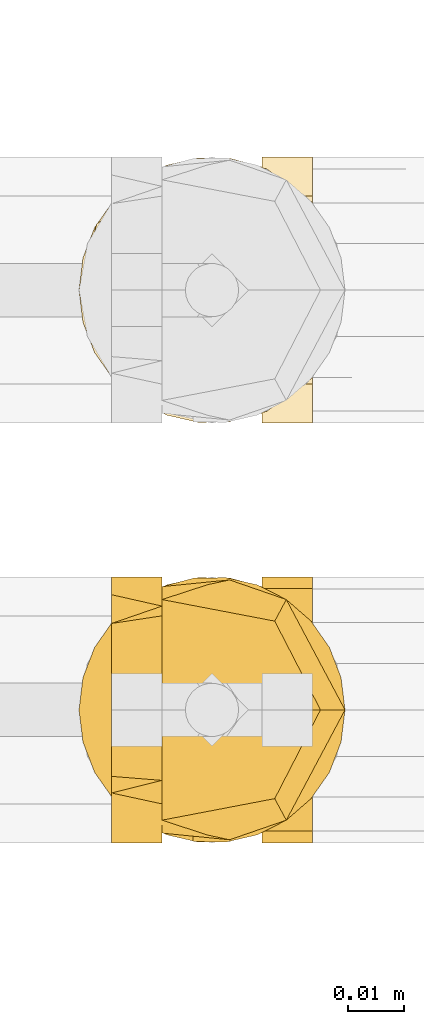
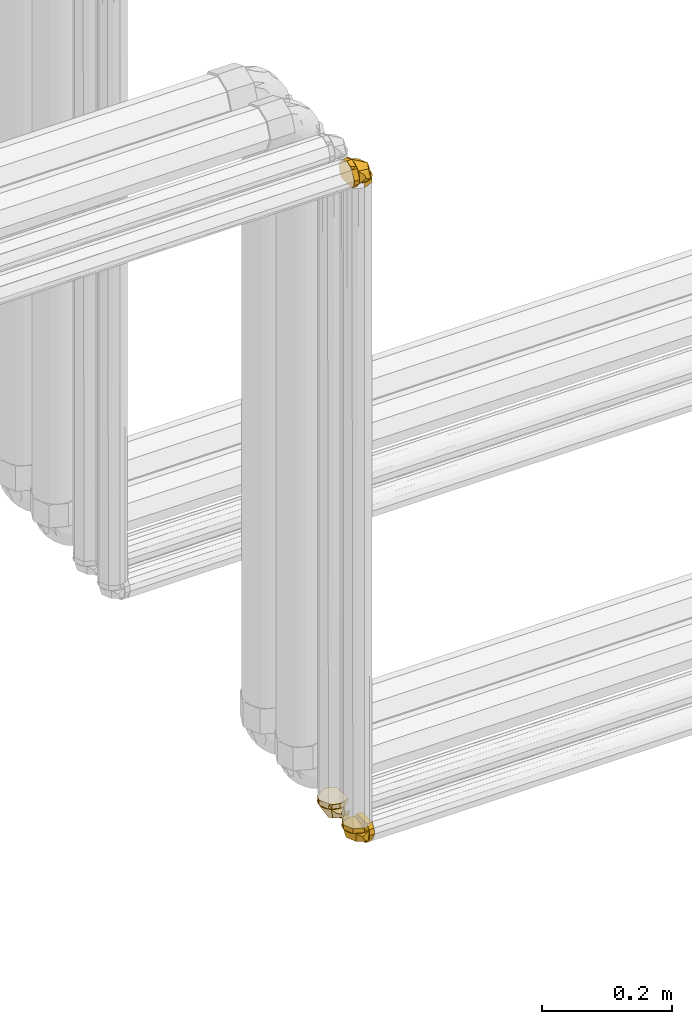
# One storey, part 367 of 652: 3 coverings.
"""IFC2X3 building model written with IfcOpenShell, lengths in millimetres."""

from ifc_helpers import new_model, entity, si_unit, converted_unit, direction, frame, origin, place, context, subcontext, project, spatial, face_set, surface_model, material, type_object, element, save


model = new_model("IFC2X3")

# Units and contexts
model_context = context("Model", 3, precision=0.01, world=frame((0.0, 0.0, 308426.39999999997)), true_north=direction((6.123233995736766e-17, 1.0)))
plan_context = context("Plan", 3, precision=0.01, world=frame((0.0, 0.0, 308426.39999999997)), true_north=direction((6.123233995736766e-17, 1.0)))
body_context = subcontext(model_context, "Body", "Model", "MODEL_VIEW")
ifc_project = project(units=[si_unit("LENGTHUNIT", "METRE", prefix="MILLI"), si_unit("AREAUNIT", "SQUARE_METRE"), si_unit("VOLUMEUNIT", "CUBIC_METRE"), converted_unit("PLANEANGLEUNIT", "DEGREE", entity("IfcPlaneAngleMeasure", 0.017453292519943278), si_unit("PLANEANGLEUNIT", "RADIAN"), dimensions=[0, 0, 0, 0, 0, 0, 0])], contexts=[model_context, plan_context])

# Site, building, storey
site_placement = place(None, origin())
site = spatial("IfcSite", under=ifc_project, at=site_placement, Name="Default", CompositionType="ELEMENT")
building_placement = place(site_placement, origin())
building = spatial("IfcBuilding", under=site, at=building_placement, CompositionType="ELEMENT")
storey_placement = place(building_placement, frame((0.0, 0.0, 1730.6999999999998)))
storey = spatial("IfcBuildingStorey", under=building, at=storey_placement, Name="EG_Produktion_FFB", CompositionType="ELEMENT", Elevation=1730.6999999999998)

# Coverings
ifc_material = material(Name="Dämmung - Armaflex-Schlauch")
covering_type = type_object("IfcCoveringType", Name="Rohrdämmung außen:Armaflex-Schlauch", PredefinedType="INSULATION")
covering_1_placement = place(storey_placement, frame((69474.64222776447, 40649.64222776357, 2584.3418455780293)))
element("IfcCovering", 1, at=covering_1_placement, inside=storey, type_object=covering_type, material=ifc_material, Name="Rohrdämmung außen:Armaflex-Schlauch", ObjectType="Rohrdämmung außen:Armaflex-Schlauch", PredefinedType="INSULATION", context=body_context, shape_type="SurfaceModel", body=[
    surface_model("IfcFaceBasedSurfaceModel", [(34.28827223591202, 3.3372686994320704, -10.458420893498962), (34.28827223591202, 48.88520354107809, -16.05479695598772), (34.28827223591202, 48.99253247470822, -21.849513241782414), (34.28827223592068, 47.69387779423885, -27.49785391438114), (34.28827223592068, 45.06649381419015, -32.66381072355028), (34.28827223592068, 41.266678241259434, -37.04007144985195), (34.28827223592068, 36.52047434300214, -40.36630128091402), (34.28827223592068, 31.11022409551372, -42.444629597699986), (34.28827223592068, 25.35777223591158, -43.15142089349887), (34.28827223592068, 19.605320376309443, -42.444629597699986), (34.28827223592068, 14.19507012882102, -40.36630128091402), (34.28827223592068, 9.448866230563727, -37.04007144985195), (34.28827223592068, 5.649050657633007, -32.66381072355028), (34.28827223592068, 3.0216666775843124, -27.49785391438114), (34.28827223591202, 1.7230119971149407, -21.84951324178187), (34.28827223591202, 1.8303409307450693, -16.05479695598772), (34.28827223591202, 47.37827577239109, -10.458420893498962), (28.691896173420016, 1.8303409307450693, -10.458420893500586), (22.897179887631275, 1.7230119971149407, -10.45842089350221), (17.248839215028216, 3.0216666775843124, -10.458420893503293), (12.082882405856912, 5.649050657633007, -10.458420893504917), (7.706621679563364, 9.448866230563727, -10.458420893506), (4.380391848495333, 14.19507012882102, -10.458420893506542), (2.302063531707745, 19.605320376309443, -10.458420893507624), (1.5952722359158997, 25.35777223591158, -10.458420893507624), (2.302063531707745, 31.11022409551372, -10.458420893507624), (4.380391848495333, 36.52047434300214, -10.458420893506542), (7.706621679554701, 41.266678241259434, -10.458420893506), (12.082882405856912, 45.06649381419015, -10.458420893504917), (17.248839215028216, 47.69387779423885, -10.458420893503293), (22.897179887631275, 48.99253247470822, -10.45842089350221), (28.691896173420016, 48.88520354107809, -10.458420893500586), (19.381051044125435, 2.9973108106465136, -18.580550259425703), (16.864925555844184, 9.499239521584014, -30.595223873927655), (23.315694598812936, 4.480941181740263, -10.458371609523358), (34.287117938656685, 15.619796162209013, -37.96861101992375), (17.943929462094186, 25.358736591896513, -38.77146899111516), (6.837630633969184, 15.503524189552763, -10.458371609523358), (9.139815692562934, 25.358736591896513, -23.526469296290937), (27.208480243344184, 2.1415490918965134, -22.52362353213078), (34.287117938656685, 4.494893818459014, -21.56118227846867), (19.381051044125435, 47.71551149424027, -18.580550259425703), (27.208480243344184, 48.57592409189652, -22.52362353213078), (16.864925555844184, 41.218233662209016, -30.595223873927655), (34.287117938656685, 35.09767702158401, -37.96861101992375), (23.315694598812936, 46.23653200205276, -10.458371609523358), (6.777169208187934, 35.09767702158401, -10.458371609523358), (9.767684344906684, 25.358736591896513, -24.614774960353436), (34.287117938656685, 46.22257936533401, -21.56118227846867), (43.309823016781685, 1.5973962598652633, -19.38893114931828), (34.287117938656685, 1.5973962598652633, -19.38893114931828), (34.287117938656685, 8.555111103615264, -36.19168459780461), (43.309823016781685, 8.555111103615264, -36.19168459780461), (34.287117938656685, 25.358736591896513, -43.15143420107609), (43.309823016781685, 25.358736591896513, -43.15143420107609), (34.287117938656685, 42.162362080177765, -36.19168459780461), (43.309823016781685, 42.162362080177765, -36.19168459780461), (34.287117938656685, 49.12007692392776, -19.38893114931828), (43.309823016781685, 49.12007692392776, -19.38893114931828), (20.213040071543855, 46.14995973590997, -1.4386708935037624), (15.068307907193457, 43.179647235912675, -1.4386708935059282), (9.923575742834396, 40.209334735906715, -1.4386708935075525), (4.7788435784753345, 37.239022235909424, -1.4386708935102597), (3.1870579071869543, 31.29839723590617, -1.4386708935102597), (1.5952722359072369, 25.35777223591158, -1.4386708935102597), (4.565584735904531, 20.21304007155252, -1.4386708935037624), (7.535897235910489, 15.068307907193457, -1.4386708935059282), (10.506209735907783, 9.92357574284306, -1.438670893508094), (13.476522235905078, 4.778843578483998, -1.4386708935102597), (19.417147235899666, 3.1870579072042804, -1.4386708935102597), (25.357772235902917, 1.5952722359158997, -1.4386708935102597), (30.236452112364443, 2.6431209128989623, -1.4386708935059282), (35.11513198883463, 3.690969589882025, -1.4386708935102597), (39.133276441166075, 6.64968879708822, -1.4386708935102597), (43.151420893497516, 9.608408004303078, -1.4386708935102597), (43.151420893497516, 41.107136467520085, -1.4386708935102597), (39.133276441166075, 44.06585567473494, -1.4386708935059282), (35.11513198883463, 47.024574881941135, -1.4386708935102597), (30.236452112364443, 48.0724235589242, -1.4386708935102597), (25.357772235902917, 49.12027223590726, -1.4386708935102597), (8.555147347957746, 42.160397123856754, -10.45842089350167), (12.755803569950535, 43.90036590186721, -10.45842089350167), (16.956459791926, 45.64033467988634, -10.45842089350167), (21.15711601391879, 47.3803034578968, -10.45842089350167), (25.357772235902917, 49.12027223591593, -10.45842089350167), (30.236452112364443, 48.0724235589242, -10.45842089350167), (35.11513198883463, 47.024574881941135, -10.45842089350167), (39.24189562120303, 43.985875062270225, -10.45842089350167), (43.151420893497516, 41.10713646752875, -10.45842089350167), (43.151420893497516, 9.608408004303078, -10.45842089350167), (39.133276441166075, 6.64968879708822, -10.45842089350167), (35.11513198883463, 3.690969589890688, -10.45842089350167), (30.10457078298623, 2.6147952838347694, -10.45842089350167), (25.357772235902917, 1.5952722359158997, -10.45842089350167), (21.15711601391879, 3.3352410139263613, -10.45842089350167), (16.956459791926, 5.075209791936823, -10.45842089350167), (12.755803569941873, 6.815178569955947, -10.45842089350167), (8.555147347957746, 8.55514734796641, -10.45842089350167), (6.815178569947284, 12.755803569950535, -10.45842089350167), (5.075209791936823, 16.956459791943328, -10.45842089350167), (3.3352410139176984, 21.157116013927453, -10.45842089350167), (1.5952722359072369, 25.35777223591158, -10.45842089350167), (3.3352410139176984, 29.558428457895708, -10.45842089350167), (5.075209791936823, 33.759084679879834, -10.45842089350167), (6.815178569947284, 37.95974090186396, -10.45842089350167)], [face_set([[[0, 1, 2, 3, 4, 5, 6, 7, 8, 9, 10, 11, 12, 13, 14, 15]], [[16, 17, 18, 19, 20, 21, 22, 23, 24, 25, 26, 27, 28, 29, 30, 31]], [[32, 20, 33]], [[32, 34, 20]], [[33, 35, 12]], [[35, 33, 36]], [[36, 8, 35]], [[33, 37, 38]], [[39, 12, 40]], [[32, 33, 39]], [[34, 32, 0]], [[12, 39, 33]], [[38, 36, 33]], [[0, 32, 39]], [[33, 20, 37]], [[37, 24, 38]], [[0, 39, 40]], [[41, 16, 42]], [[43, 44, 36]], [[28, 45, 41]], [[46, 43, 47]], [[44, 8, 36]], [[4, 43, 42]], [[44, 43, 4]], [[42, 16, 48]], [[28, 43, 46]], [[16, 41, 45]], [[43, 41, 42]], [[43, 36, 47]], [[47, 24, 46]], [[28, 41, 43]], [[48, 4, 42]]]), face_set([[[49, 50, 51, 52]], [[53, 54, 52, 51]], [[54, 53, 55, 56]], [[57, 58, 56, 55]]]), face_set([[[59, 60, 61, 62, 63, 64, 65, 66, 67, 68, 69, 70, 71, 72, 73, 74, 75, 76, 77, 78, 79]], [[80, 81, 82, 83, 84, 85, 86, 87, 88, 89, 90, 91, 92, 93, 94, 95, 96, 97, 98, 99, 100, 101, 102, 103, 104]], [[75, 74, 89, 88]], [[71, 70, 93, 92, 91, 72]], [[73, 72, 91, 90, 89, 74]], [[96, 67, 97]], [[64, 100, 65]], [[100, 99, 65]], [[69, 95, 94]], [[94, 93, 70]], [[67, 96, 68]], [[66, 99, 98]], [[64, 101, 100]], [[99, 66, 65]], [[70, 69, 94]], [[98, 97, 67]], [[96, 95, 68]], [[69, 68, 95]], [[66, 98, 67]], [[104, 61, 80]], [[79, 83, 59]], [[83, 82, 59]], [[63, 103, 102]], [[102, 101, 64]], [[61, 104, 62]], [[60, 82, 81]], [[79, 84, 83]], [[82, 60, 59]], [[64, 63, 102]], [[81, 80, 61]], [[104, 103, 62]], [[63, 62, 103]], [[60, 81, 61]], [[76, 75, 88, 87, 86, 77]], [[78, 77, 86, 85, 84, 79]]])]),
])
covering_2_placement = place(storey_placement, frame((69480.61107910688, 40574.64222776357, 3825.3577722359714)))
element("IfcCovering", 2, at=covering_2_placement, inside=storey, type_object=covering_type, material=ifc_material, Name="Rohrdämmung außen:Armaflex-Schlauch", ObjectType="Rohrdämmung außen:Armaflex-Schlauch", PredefinedType="INSULATION", context=body_context, shape_type="SurfaceModel", body=[
    surface_model("IfcFaceBasedSurfaceModel", [(10.458420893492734, 47.37827577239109, -34.28827223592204), (16.054796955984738, 48.88520354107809, -34.28827223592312), (21.84951324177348, 48.99253247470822, -34.288272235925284), (27.497853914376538, 47.69387779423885, -34.288272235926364), (32.66381072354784, 45.06649381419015, -34.28827223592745), (37.04007144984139, 41.266678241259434, -34.28827223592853), (40.36630128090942, 36.52047434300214, -34.28827223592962), (42.44462959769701, 31.11022409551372, -34.2882722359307), (43.151420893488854, 25.35777223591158, -34.2882722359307), (42.44462959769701, 19.605320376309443, -34.2882722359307), (40.36630128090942, 14.19507012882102, -34.28827223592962), (37.04007144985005, 9.448866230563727, -34.28827223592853), (32.66381072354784, 5.649050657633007, -34.28827223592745), (27.497853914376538, 3.0216666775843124, -34.288272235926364), (21.84951324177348, 1.7230119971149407, -34.288272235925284), (16.054796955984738, 1.8303409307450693, -34.28827223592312), (10.458420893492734, 3.3372686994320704, -34.28827223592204), (10.458420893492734, 1.8303409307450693, -28.691896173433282), (10.458420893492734, 1.7230119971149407, -22.897179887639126), (10.458420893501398, 3.0216666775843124, -17.248839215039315), (10.458420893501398, 5.649050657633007, -12.082882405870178), (10.458420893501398, 9.448866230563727, -7.706621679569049), (10.458420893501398, 14.19507012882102, -4.380391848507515), (10.458420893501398, 19.605320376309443, -2.3020635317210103), (10.458420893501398, 25.35777223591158, -1.5952722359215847), (10.458420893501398, 31.11022409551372, -2.3020635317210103), (10.458420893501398, 36.52047434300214, -4.380391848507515), (10.458420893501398, 41.266678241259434, -7.706621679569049), (10.458420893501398, 45.06649381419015, -12.082882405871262), (10.458420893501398, 47.69387779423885, -17.248839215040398), (10.458420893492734, 48.99253247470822, -22.897179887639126), (10.458420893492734, 48.88520354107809, -28.691896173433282), (18.579326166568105, 47.71543825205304, -19.3811898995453), (30.597197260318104, 41.21816042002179, -16.867389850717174), (10.458891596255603, 46.236458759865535, -23.314670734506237), (37.968840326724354, 35.097603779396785, -34.28841951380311), (38.7734423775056, 25.358663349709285, -17.941742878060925), (10.458891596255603, 35.213875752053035, -6.838932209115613), (23.527861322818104, 25.358663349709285, -9.1399545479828), (22.523271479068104, 48.57585084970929, -27.20803773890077), (21.560539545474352, 46.222506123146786, -34.28841951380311), (18.579326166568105, 2.9972375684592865, -19.3811898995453), (22.523271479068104, 2.1414758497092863, -27.20803773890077), (30.597197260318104, 9.499166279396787, -16.867389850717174), (37.968840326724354, 15.619722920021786, -34.28841951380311), (10.458891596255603, 4.480867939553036, -23.314670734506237), (10.458891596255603, 15.619722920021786, -6.777889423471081), (24.616166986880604, 25.358663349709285, -9.76840456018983), (21.560539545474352, 4.4948205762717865, -34.28841951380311), (19.388579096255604, 49.120003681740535, -43.30821779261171), (19.388579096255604, 49.120003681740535, -34.28841951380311), (36.19220458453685, 42.16228883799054, -34.28841951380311), (36.19220458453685, 42.16228883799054, -43.30821779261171), (43.14991942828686, 25.358663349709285, -34.28841951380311), (43.14991942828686, 25.358663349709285, -43.30821779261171), (36.19220458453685, 8.555037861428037, -34.28841951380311), (36.19220458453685, 8.555037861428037, -43.30821779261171), (19.388579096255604, 1.5973230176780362, -34.28841951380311), (19.388579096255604, 1.5973230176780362, -43.30821779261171), (1.4386708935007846, 4.565584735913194, -20.213040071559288), (1.4386708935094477, 7.535897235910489, -15.068307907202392), (1.4386708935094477, 10.506209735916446, -9.923575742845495), (1.4386708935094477, 13.47652223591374, -4.7788435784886), (1.4386708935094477, 19.417147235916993, -3.187057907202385), (1.4386708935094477, 25.35777223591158, -1.5952722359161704), (1.4386708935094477, 30.50250440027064, -4.565584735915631), (1.4386708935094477, 35.6472365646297, -7.535897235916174), (1.4386708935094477, 40.7919687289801, -10.506209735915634), (1.4386708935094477, 45.936700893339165, -13.476522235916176), (1.4386708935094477, 47.52848656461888, -19.41714723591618), (1.4386708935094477, 49.12027223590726, -25.357772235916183), (1.4386708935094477, 48.0724235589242, -30.23645211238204), (1.4386708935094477, 47.024574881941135, -35.11513198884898), (1.4386708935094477, 44.06585567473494, -39.13327644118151), (1.4386708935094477, 41.107136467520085, -43.15142089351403), (1.4386708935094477, 9.608408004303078, -43.15142089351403), (1.4386708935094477, 6.64968879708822, -39.13327644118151), (1.4386708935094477, 3.690969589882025, -35.11513198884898), (1.4386708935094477, 2.6431209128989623, -30.23645211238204), (1.4386708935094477, 1.5952722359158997, -25.357772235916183), (10.458420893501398, 8.55514734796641, -8.55514734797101), (10.458420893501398, 6.815178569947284, -12.755803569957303), (10.458420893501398, 5.075209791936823, -16.956459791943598), (10.45842089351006, 3.3352410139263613, -21.15711601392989), (10.458420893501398, 1.5952722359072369, -25.357772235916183), (10.458420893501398, 2.6431209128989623, -30.23645211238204), (10.458420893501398, 3.690969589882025, -35.11513198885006), (10.458420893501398, 6.729669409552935, -39.241895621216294), (10.458420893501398, 9.608408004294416, -43.15142089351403), (10.458420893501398, 41.107136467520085, -43.15142089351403), (10.458420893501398, 44.06585567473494, -39.13327644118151), (10.458420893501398, 47.02457488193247, -35.11513198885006), (10.458420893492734, 48.10074918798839, -30.104570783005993), (10.458420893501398, 49.12027223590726, -25.357772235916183), (10.458420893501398, 47.3803034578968, -21.15711601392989), (10.458420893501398, 45.64033467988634, -16.956459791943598), (10.458420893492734, 43.90036590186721, -12.755803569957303), (10.458420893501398, 42.160397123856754, -8.55514734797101), (10.458420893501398, 37.95974090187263, -6.8151785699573), (10.458420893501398, 33.759084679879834, -5.075209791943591), (10.458420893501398, 29.558428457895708, -3.3352410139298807), (10.458420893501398, 25.35777223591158, -1.5952722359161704), (10.458420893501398, 21.157116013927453, -3.3352410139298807), (10.458420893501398, 16.956459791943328, -5.075209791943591), (10.458420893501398, 12.755803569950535, -6.8151785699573)], [face_set([[[0, 1, 2, 3, 4, 5, 6, 7, 8, 9, 10, 11, 12, 13, 14, 15]], [[16, 17, 18, 19, 20, 21, 22, 23, 24, 25, 26, 27, 28, 29, 30, 31]], [[32, 28, 33]], [[32, 34, 28]], [[33, 35, 4]], [[35, 33, 36]], [[36, 8, 35]], [[33, 37, 38]], [[39, 4, 40, 0]], [[32, 33, 39]], [[34, 32, 0]], [[4, 39, 33]], [[38, 36, 33]], [[0, 32, 39]], [[33, 28, 37]], [[37, 24, 38]], [[41, 16, 42]], [[43, 44, 36]], [[20, 45, 41]], [[46, 43, 47]], [[44, 8, 36]], [[12, 43, 42]], [[44, 43, 12]], [[42, 16, 48]], [[20, 43, 46]], [[16, 41, 45]], [[43, 41, 42]], [[43, 36, 47]], [[47, 24, 46]], [[20, 41, 43]], [[48, 12, 42]]]), face_set([[[49, 50, 51, 52]], [[53, 54, 52, 51]], [[54, 53, 55, 56]], [[57, 58, 56, 55]]]), face_set([[[59, 60, 61, 62, 63, 64, 65, 66, 67, 68, 69, 70, 71, 72, 73, 74, 75, 76, 77, 78, 79]], [[80, 81, 82, 83, 84, 85, 86, 87, 88, 89, 90, 91, 92, 93, 94, 95, 96, 97, 98, 99, 100, 101, 102, 103, 104]], [[75, 74, 89, 88]], [[71, 70, 93, 92, 91, 72]], [[73, 72, 91, 90, 89, 74]], [[96, 67, 97]], [[64, 100, 65]], [[100, 99, 65]], [[69, 95, 94]], [[94, 93, 70]], [[67, 96, 68]], [[66, 99, 98]], [[64, 101, 100]], [[99, 66, 65]], [[70, 69, 94]], [[98, 97, 67]], [[96, 95, 68]], [[69, 68, 95]], [[66, 98, 67]], [[104, 61, 80]], [[79, 83, 59]], [[83, 82, 59]], [[63, 103, 102]], [[102, 101, 64]], [[61, 104, 62]], [[60, 82, 81]], [[79, 84, 83]], [[82, 60, 59]], [[64, 63, 102]], [[81, 80, 61]], [[104, 103, 62]], [[63, 62, 103]], [[60, 81, 61]], [[76, 75, 88, 87, 86, 77]], [[78, 77, 86, 85, 84, 79]]])]),
])
covering_3_placement = place(storey_placement, frame((69474.64222776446, 40574.64222776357, 2584.3418455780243)))
element("IfcCovering", 3, at=covering_3_placement, inside=storey, type_object=covering_type, material=ifc_material, Name="Rohrdämmung außen:Armaflex-Schlauch", ObjectType="Rohrdämmung außen:Armaflex-Schlauch", PredefinedType="INSULATION", context=body_context, shape_type="SurfaceModel", body=[
    surface_model("IfcFaceBasedSurfaceModel", [(34.28827223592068, 47.37827577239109, -10.458420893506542), (28.691896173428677, 1.8303409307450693, -10.458420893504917), (22.897179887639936, 1.7230119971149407, -10.458420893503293), (17.248839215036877, 3.0216666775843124, -10.45842089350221), (12.082882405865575, 5.649050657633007, -10.458420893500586), (7.706621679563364, 9.448866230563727, -10.458420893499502), (4.380391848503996, 14.19507012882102, -10.458420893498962), (2.3020635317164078, 19.605320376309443, -10.458420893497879), (1.5952722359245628, 25.35777223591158, -10.458420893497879), (2.3020635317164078, 31.11022409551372, -10.458420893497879), (4.380391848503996, 36.52047434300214, -10.458420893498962), (7.706621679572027, 41.266678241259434, -10.458420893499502), (12.082882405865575, 45.06649381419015, -10.458420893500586), (17.248839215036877, 47.69387779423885, -10.45842089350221), (22.897179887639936, 48.99253247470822, -10.458420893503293), (28.691896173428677, 48.88520354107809, -10.458420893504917), (34.28827223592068, 3.3372686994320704, -10.458420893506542), (34.28827223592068, 48.88520354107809, -16.054796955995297), (34.28827223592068, 48.99253247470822, -21.849513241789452), (34.28827223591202, 47.69387779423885, -27.49785391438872), (34.28827223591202, 45.06649381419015, -32.66381072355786), (34.28827223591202, 41.266678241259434, -37.040071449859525), (34.28827223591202, 36.52047434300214, -40.366301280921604), (34.28827223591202, 31.11022409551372, -42.44462959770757), (34.28827223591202, 25.35777223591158, -43.151420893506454), (34.28827223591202, 19.605320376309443, -42.44462959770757), (34.28827223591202, 14.19507012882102, -40.366301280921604), (34.28827223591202, 9.448866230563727, -37.040071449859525), (34.28827223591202, 5.649050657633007, -32.66381072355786), (34.28827223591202, 3.0216666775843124, -27.49785391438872), (34.28827223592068, 1.7230119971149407, -21.849513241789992), (34.28827223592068, 1.8303409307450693, -16.054796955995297), (26.166683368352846, 47.71543825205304, -25.365310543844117), (14.153463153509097, 41.21816042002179, -27.879691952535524), (34.28711793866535, 46.236458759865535, -21.43212038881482), (6.777169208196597, 35.097603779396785, -10.458371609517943), (5.977218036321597, 25.358663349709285, -26.80504824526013), (34.28711793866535, 35.213875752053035, -37.9075682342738), (21.218148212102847, 25.358663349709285, -35.60654589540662), (22.222738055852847, 48.57585084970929, -17.538462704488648), (23.1854699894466, 46.222506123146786, -10.458371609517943), (26.166683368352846, 2.9972375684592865, -25.365310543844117), (22.222738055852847, 2.1414758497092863, -17.538462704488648), (14.153463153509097, 9.499166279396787, -27.879691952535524), (6.777169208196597, 15.619722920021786, -10.458371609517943), (34.28711793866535, 4.480867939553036, -21.43212038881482), (34.28711793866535, 15.619722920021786, -37.968611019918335), (20.129842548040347, 25.358663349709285, -34.978095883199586), (23.1854699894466, 4.4948205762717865, -10.458371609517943), (25.357430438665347, 49.120003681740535, -1.4385733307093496), (25.357430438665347, 49.120003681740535, -10.458371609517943), (8.553804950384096, 42.16228883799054, -10.458371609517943), (8.553804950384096, 42.16228883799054, -1.4385733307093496), (1.5960901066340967, 25.358663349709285, -10.458371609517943), (1.5960901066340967, 25.358663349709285, -1.4385733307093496), (8.553804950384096, 8.555037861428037, -10.458371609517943), (8.553804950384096, 8.555037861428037, -1.4385733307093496), (25.357430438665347, 1.5973230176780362, -10.458371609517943), (25.357430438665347, 1.5973230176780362, -1.4385733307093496), (43.30802223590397, 4.565584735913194, -24.53365305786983), (43.30802223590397, 7.535897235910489, -29.678385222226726), (43.30802223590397, 10.506209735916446, -34.823117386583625), (43.30802223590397, 13.47652223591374, -39.96784955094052), (43.30802223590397, 19.417147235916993, -41.55963522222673), (43.30802223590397, 25.35777223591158, -43.15142089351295), (43.30802223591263, 30.50250440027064, -40.18110839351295), (43.30802223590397, 35.6472365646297, -37.210795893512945), (43.30802223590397, 40.7919687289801, -34.240483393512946), (43.30802223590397, 45.936700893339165, -31.270170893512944), (43.30802223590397, 47.52848656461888, -25.32954589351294), (43.30802223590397, 49.12027223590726, -19.388920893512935), (43.30802223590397, 48.0724235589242, -14.510241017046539), (43.30802223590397, 47.024574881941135, -9.631561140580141), (43.30802223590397, 44.06585567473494, -5.613416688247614), (43.30802223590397, 41.107136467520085, -1.595272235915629), (43.30802223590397, 9.608408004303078, -1.595272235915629), (43.30802223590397, 6.64968879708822, -5.613416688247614), (43.30802223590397, 3.690969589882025, -9.6315611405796), (43.30802223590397, 2.6431209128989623, -14.510241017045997), (43.30802223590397, 1.5952722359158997, -19.388920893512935), (34.28827223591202, 8.55514734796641, -36.19154578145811), (34.28827223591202, 6.815178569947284, -31.990889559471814), (34.28827223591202, 5.075209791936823, -27.79023333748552), (34.28827223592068, 3.3352410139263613, -23.589577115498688), (34.28827223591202, 1.5952722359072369, -19.388920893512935), (34.28827223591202, 2.6431209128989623, -14.510241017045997), (34.28827223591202, 3.690969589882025, -9.631561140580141), (34.28827223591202, 6.729669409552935, -5.504797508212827), (34.28827223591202, 9.608408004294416, -1.595272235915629), (34.28827223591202, 41.107136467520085, -1.595272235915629), (34.28827223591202, 44.06585567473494, -5.613416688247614), (34.28827223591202, 47.02457488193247, -9.631561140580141), (34.28827223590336, 48.10074918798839, -14.642122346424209), (34.28827223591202, 49.12027223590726, -19.388920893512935), (34.28827223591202, 47.3803034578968, -23.589577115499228), (34.28827223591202, 45.64033467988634, -27.79023333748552), (34.28827223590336, 43.90036590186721, -31.990889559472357), (34.28827223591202, 42.160397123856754, -36.19154578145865), (34.28827223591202, 37.95974090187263, -37.931514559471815), (34.28827223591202, 33.759084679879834, -39.671483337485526), (34.28827223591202, 29.558428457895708, -41.41145211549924), (34.28827223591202, 25.35777223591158, -43.15142089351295), (34.28827223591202, 21.157116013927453, -41.41145211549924), (34.28827223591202, 16.956459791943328, -39.671483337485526), (34.28827223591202, 12.755803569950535, -37.931514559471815)], [face_set([[[0, 1, 2, 3, 4, 5, 6, 7, 8, 9, 10, 11, 12, 13, 14, 15]], [[16, 17, 18, 19, 20, 21, 22, 23, 24, 25, 26, 27, 28, 29, 30, 31]], [[32, 20, 33]], [[32, 34, 20]], [[33, 35, 12]], [[35, 33, 36]], [[36, 8, 35]], [[33, 37, 38]], [[39, 12, 40, 0]], [[32, 33, 39]], [[34, 32, 0]], [[12, 39, 33]], [[38, 36, 33]], [[0, 32, 39]], [[33, 20, 37]], [[37, 24, 38]], [[41, 16, 42]], [[43, 44, 36]], [[28, 45, 41]], [[46, 43, 47]], [[44, 8, 36]], [[4, 43, 42]], [[44, 43, 4]], [[42, 16, 48]], [[28, 43, 46]], [[16, 41, 45]], [[43, 41, 42]], [[43, 36, 47]], [[47, 24, 46]], [[28, 41, 43]], [[48, 4, 42]]]), face_set([[[49, 50, 51, 52]], [[53, 54, 52, 51]], [[54, 53, 55, 56]], [[57, 58, 56, 55]]]), face_set([[[59, 60, 61, 62, 63, 64, 65, 66, 67, 68, 69, 70, 71, 72, 73, 74, 75, 76, 77, 78, 79]], [[80, 81, 82, 83, 84, 85, 86, 87, 88, 89, 90, 91, 92, 93, 94, 95, 96, 97, 98, 99, 100, 101, 102, 103, 104]], [[75, 74, 89, 88]], [[71, 70, 93, 92, 91, 72]], [[73, 72, 91, 90, 89, 74]], [[96, 67, 97]], [[64, 100, 65]], [[100, 99, 65]], [[69, 95, 94]], [[94, 93, 70]], [[67, 96, 68]], [[66, 99, 98]], [[64, 101, 100]], [[99, 66, 65]], [[70, 69, 94]], [[98, 97, 67]], [[96, 95, 68]], [[69, 68, 95]], [[66, 98, 67]], [[104, 61, 80]], [[79, 83, 59]], [[83, 82, 59]], [[63, 103, 102]], [[102, 101, 64]], [[61, 104, 62]], [[60, 82, 81]], [[79, 84, 83]], [[82, 60, 59]], [[64, 63, 102]], [[81, 80, 61]], [[104, 103, 62]], [[63, 62, 103]], [[60, 81, 61]], [[76, 75, 88, 87, 86, 77]], [[78, 77, 86, 85, 84, 79]]])]),
])

save(model, "model.ifc")
